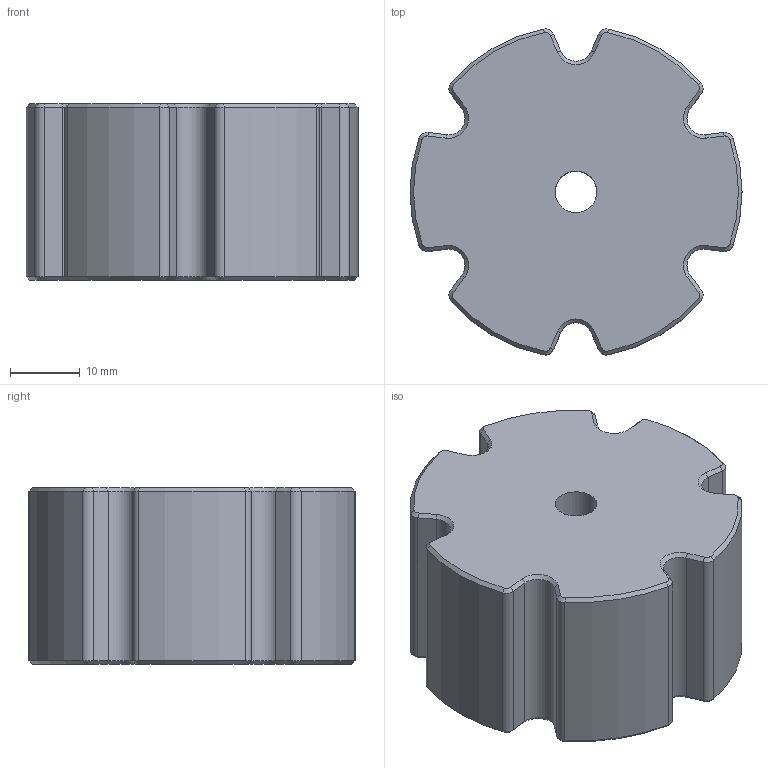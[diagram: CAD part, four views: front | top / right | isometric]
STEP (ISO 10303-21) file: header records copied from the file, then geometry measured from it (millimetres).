
FILE_DESCRIPTION(/* description */ ('Unknown'),/* implementation_level */ '2;1');
FILE_NAME(/* name */ 'GEN0001-D463 FBm RS Z06 D047.8 PB blue',/* time_stamp */ '2020-06-12T13:44:19+02:00',/* author */ ('Unknown'),/* organization */ ('Unknown'),/* preprocessor_version */ 'ST-DEVELOPER v16.7',/* originating_system */ 'DEX',/* authorisation */ $);
FILE_SCHEMA (('AUTOMOTIVE_DESIGN {1 0 10303 214 3 1 1}'));
Length unit declared in the file: millimetre
Products named in the file (1): GEN0001-D463 FBm RS Z06 D047.8 PB blue
Bounding box: 47.75 x 46.89 x 25.4 mm (x, y, z)
Volume: 40794.1 mm3; surface area: 8154.9 mm2
Topology: 1 solids, 1 shells, 111 faces, 256 edges, 147 vertices
Faces by surface type: cone 48, plane 38, cylinder 25
Full cylindrical faces by diameter (mm): 6 x1
Entity records: 3100 total; most frequent: DIRECTION 576, CARTESIAN_POINT 512, ORIENTED_EDGE 508, EDGE_CURVE 254, AXIS2_PLACEMENT_3D 210, LINE 156, VECTOR 156, VERTEX_POINT 146
